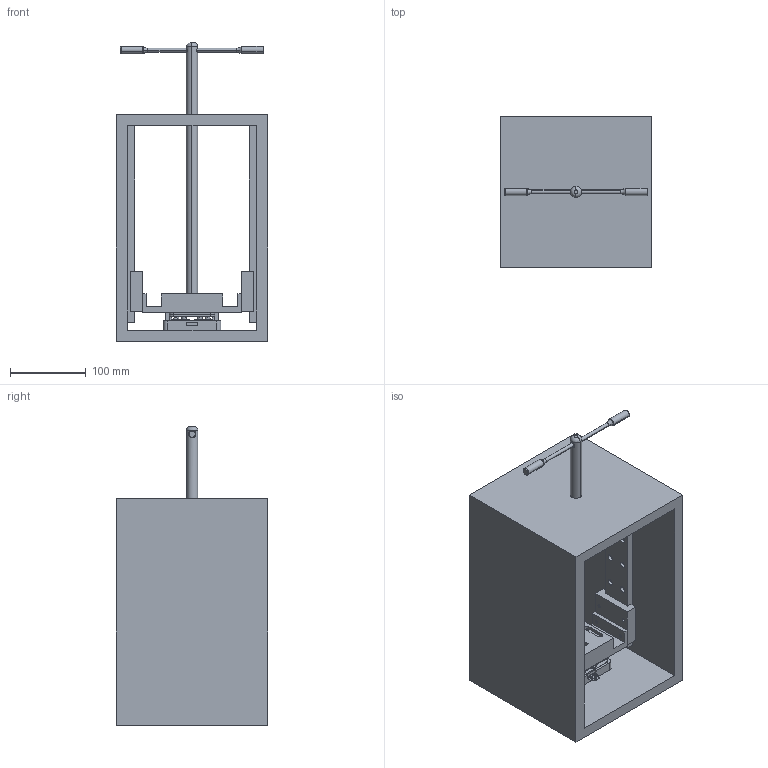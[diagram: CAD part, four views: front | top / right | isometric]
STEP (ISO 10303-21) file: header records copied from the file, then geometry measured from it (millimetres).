
FILE_DESCRIPTION (( 'STEP AP214' ), '1' );
FILE_NAME ('PuzzleR4.STEP', '2026-06-05T03:35:41', ( '' ), ( '' ), 'SwSTEP 2.0', 'SolidWorks 2024', '' );
FILE_SCHEMA (( 'AUTOMOTIVE_DESIGN' ));
Length unit declared in the file: millimetre
Products named in the file (32): upperholder_spacer; toplid_R2; Core+yoke; Separator_rod; FIxed box; Dowel pin; Separator_lever; 零件2^PuzzleR4; Separator_box; 墊塊; Separator_plateR2; eq733; lowlid_R2; YOKE; Sensor_support_lower; 襯套; 零件1^PuzzleR4; 短導柱; 導柱; PuzzleR4; yoke & core組合; 墊塊左; Sensor_support; Plastic bushing; microfluidic_20260510; upperholder_lid; upperholder_lid_right; Separator_rail; Magnetic poles_new; Separator_train; cover glass; cover glass_lower
Assembly tree (48 placements, depth 3):
  零件2^PuzzleR4
  零件1^PuzzleR4
  PuzzleR4
    Sensor_support_lower
    FIxed box
    lowlid_R2
    Magnetic poles_new  x2
    cover glass_lower
    cover glass
    toplid_R2
    Sensor_support
    Core+yoke
    upperholder_spacer  x2
    Dowel pin
    eq733  x2
    Plastic bushing  x6
    Separator_rod
    Separator_lever
    Separator_box
    Separator_rail  x2
    Separator_train  x2
    Separator_plateR2
    microfluidic_20260510
    墊塊
    墊塊左
    yoke & core組合
      YOKE
      短導柱  x3
      導柱  x3
      襯套  x6
    upperholder_lid_right
    upperholder_lid
Bounding box: 200 x 200 x 395 mm (x, y, z)
Volume: 3337685.4 mm3; surface area: 635093 mm2
Topology: 67 solids, 67 shells, 1589 faces, 4036 edges, 2671 vertices
Faces by surface type: cylinder 863, plane 686, torus 20, cone 10, sphere 6, bspline 4
Entity records: 42431 total; most frequent: CARTESIAN_POINT 7741, DIRECTION 7418, ORIENTED_EDGE 6670, EDGE_CURVE 3335, AXIS2_PLACEMENT_3D 2799, VERTEX_POINT 2207, LINE 1820, VECTOR 1820
